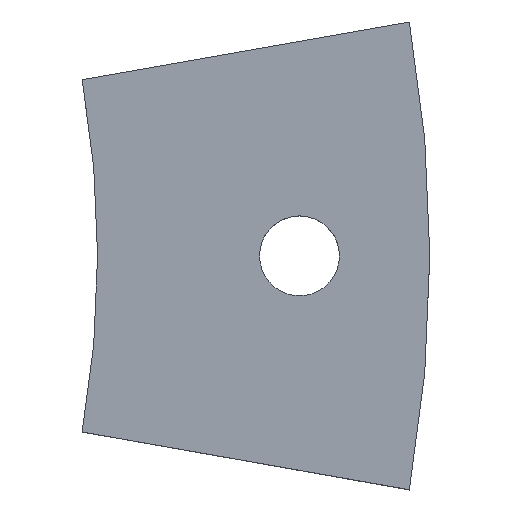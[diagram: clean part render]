
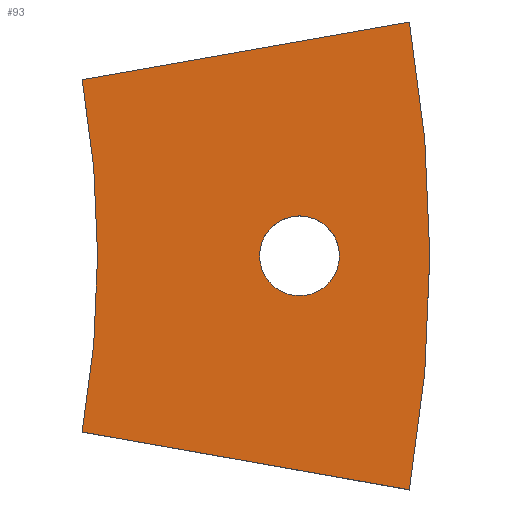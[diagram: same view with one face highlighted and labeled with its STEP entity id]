
A CAD part, top view. The second image highlights one B-rep face of the part: STEP entity #93.
In plain terms, the highlighted planar face has unit normal (0, 0, 1).
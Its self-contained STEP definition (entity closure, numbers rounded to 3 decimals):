
#33 = VERTEX_POINT('',#34);
#34 = CARTESIAN_POINT('',(57.494,10.138,11.5));
#40 = EDGE_CURVE('',#41,#33,#43,.T.);
#41 = VERTEX_POINT('',#42);
#42 = CARTESIAN_POINT('',(57.494,-10.138,11.5));
#43 = CIRCLE('',#44,58.381);
#44 = AXIS2_PLACEMENT_3D('',#45,#46,#47);
#45 = CARTESIAN_POINT('',(0.,0.,11.5));
#46 = DIRECTION('',(0.,0.,1.));
#47 = DIRECTION('',(0.985,-0.174,0.));
#93 = ADVANCED_FACE('',(#94,#120),#131,.T.);
#94 = FACE_BOUND('',#95,.F.);
#95 = EDGE_LOOP('',(#96,#97,#105,#114));
#96 = ORIENTED_EDGE('',*,*,#40,.T.);
#97 = ORIENTED_EDGE('',*,*,#98,.T.);
#98 = EDGE_CURVE('',#33,#99,#101,.T.);
#99 = VERTEX_POINT('',#100);
#100 = CARTESIAN_POINT('',(76.323,13.458,11.5));
#101 = LINE('',#102,#103);
#102 = CARTESIAN_POINT('',(57.494,10.138,11.5));
#103 = VECTOR('',#104,1.);
#104 = DIRECTION('',(0.985,0.174,0.));
#105 = ORIENTED_EDGE('',*,*,#106,.F.);
#106 = EDGE_CURVE('',#107,#99,#109,.T.);
#107 = VERTEX_POINT('',#108);
#108 = CARTESIAN_POINT('',(76.323,-13.458,11.5));
#109 = CIRCLE('',#110,77.5);
#110 = AXIS2_PLACEMENT_3D('',#111,#112,#113);
#111 = CARTESIAN_POINT('',(0.,0.,11.5));
#112 = DIRECTION('',(0.,0.,1.));
#113 = DIRECTION('',(0.985,-0.174,0.));
#114 = ORIENTED_EDGE('',*,*,#115,.F.);
#115 = EDGE_CURVE('',#41,#107,#116,.T.);
#116 = LINE('',#117,#118);
#117 = CARTESIAN_POINT('',(57.494,-10.138,11.5));
#118 = VECTOR('',#119,1.);
#119 = DIRECTION('',(0.985,-0.174,0.)
  );
#120 = FACE_BOUND('',#121,.F.);
#121 = EDGE_LOOP('',(#122));
#122 = ORIENTED_EDGE('',*,*,#123,.F.);
#123 = EDGE_CURVE('',#124,#124,#126,.T.);
#124 = VERTEX_POINT('',#125);
#125 = CARTESIAN_POINT('',(72.3,0.,11.5));
#126 = CIRCLE('',#127,2.3);
#127 = AXIS2_PLACEMENT_3D('',#128,#129,#130);
#128 = CARTESIAN_POINT('',(70.,0.,11.5));
#129 = DIRECTION('',(0.,0.,-1.));
#130 = DIRECTION('',(1.,0.,0.));
#131 = PLANE('',#132);
#132 = AXIS2_PLACEMENT_3D('',#133,#134,#135);
#133 = CARTESIAN_POINT('',(0.,0.,11.5));
#134 = DIRECTION('',(0.,0.,1.));
#135 = DIRECTION('',(0.985,-0.174,0.));
